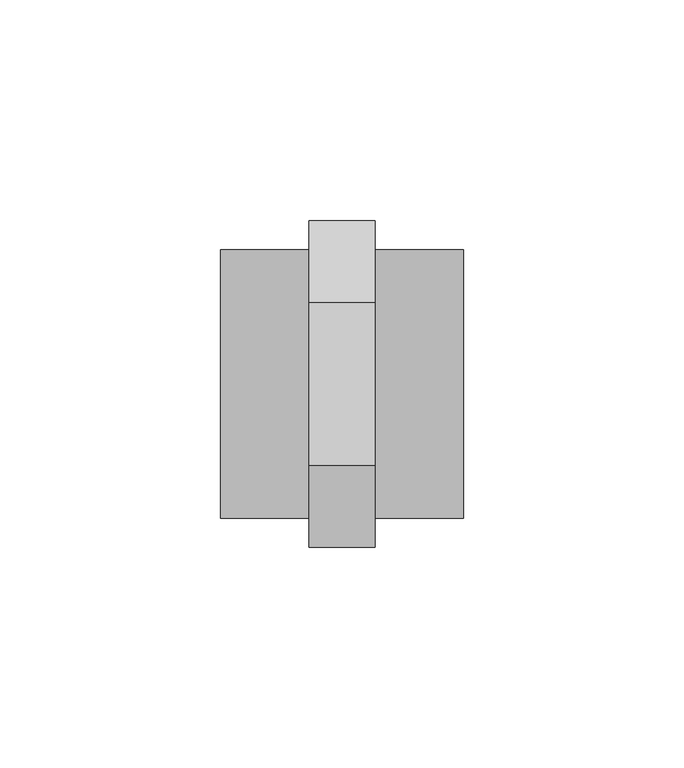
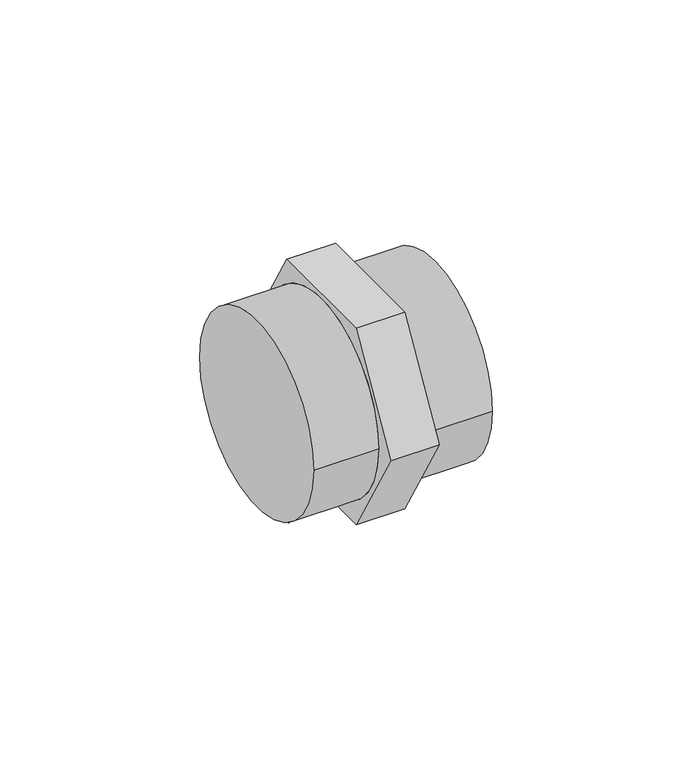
"""IFC4 building model written with IfcOpenShell, lengths in millimetres: pipe fitting geometry, 01011005 : Uniao Simples."""

from ifc_helpers import new_model, si_unit, frame, origin, place, context, project, spatial, circle_curve, source, transform, mapped, element, save
from ifc_brep_helpers import plane_surface, cylinder_surface, advanced_brep


def pipe_fitting_7f28b332(model_context):
    return source(origin(), model_context, "Body", "AdvancedBrep", [
        advanced_brep(
        [(7.5, -18.4752086, 32.0), (7.5, -36.9504172, 0.0), (7.5, -18.4752086, -32.0), (7.5, 18.4752086, -32.0), (7.5, 36.9504172, 0.0), (7.5, 18.4752086, 32.0), (7.5, -30.4, 0.0), (7.5, 30.4, 0.0), (-7.5, -18.4752086, 32.0), (-7.5, 18.4752086, 32.0), (-7.5, 36.9504172, 0.0), (-7.5, 18.4752086, -32.0), (-7.5, -18.4752086, -32.0), (-7.5, -36.9504172, 0.0), (-7.5, 30.4, 0.0), (-7.5, -30.4, 0.0), (-27.5, -30.4, 0.0), (-27.5, 30.4, 0.0), (27.5, -30.4, 0.0), (27.5, 30.4, 0.0)],
        [
            (0, 1),
            (1, 2),
            (2, 3),
            (3, 4),
            (4, 5),
            (5, 0),
            (6, 7, circle_curve(frame((7.5, 0.0, 0.0), z_axis=(-1.0, 0.0, 0.0), x_axis=(0.0, 1.0, 0.0)), 30.4)),
            (7, 6, circle_curve(frame((7.5, 0.0, 0.0), z_axis=(-1.0, 0.0, 0.0), x_axis=(0.0, 1.0, 0.0)), 30.4)),
            (8, 9),
            (9, 10),
            (10, 11),
            (11, 12),
            (12, 13),
            (13, 8),
            (14, 15, circle_curve(frame((-7.5, 0.0, 0.0), z_axis=(1.0, 0.0, 0.0), x_axis=(0.0, 1.0, 0.0)), 30.4)),
            (15, 14, circle_curve(frame((-7.5, 0.0, 0.0), z_axis=(1.0, 0.0, 0.0), x_axis=(0.0, 1.0, 0.0)), 30.4)),
            (0, 8),
            (13, 1),
            (12, 2),
            (11, 3),
            (10, 4),
            (9, 5),
            (16, 17, circle_curve(frame((-27.5, 0.0, 0.0), z_axis=(-1.0, 0.0, 0.0), x_axis=(0.0, 1.0, 0.0)), 30.4)),
            (17, 16, circle_curve(frame((-27.5, 0.0, 0.0), z_axis=(-1.0, 0.0, 0.0), x_axis=(0.0, 1.0, 0.0)), 30.4)),
            (18, 19, circle_curve(frame((27.5, 0.0, 0.0), z_axis=(1.0, 0.0, 0.0), x_axis=(0.0, 1.0, 0.0)), 30.4)),
            (19, 18, circle_curve(frame((27.5, 0.0, 0.0), z_axis=(1.0, 0.0, 0.0), x_axis=(0.0, 1.0, 0.0)), 30.4)),
            (16, 15),
            (14, 17),
            (19, 7),
            (6, 18),
        ],
        [
            plane_surface(frame((7.5, -18.4752086, 32.0), z_axis=(1.0, 0.0, 0.0), x_axis=(0.0, -0.500000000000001, -0.8660254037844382))),
            plane_surface(frame((-7.5, -18.4752086, 32.0), z_axis=(-1.0, 0.0, 0.0), x_axis=(0.0, 0.500000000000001, 0.8660254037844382))),
            plane_surface(frame((7.5, -18.4752086, 32.0), z_axis=(0.0, -0.8660254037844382, 0.500000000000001), x_axis=(-1.0, 0.0, 0.0))),
            plane_surface(frame((7.5, -36.9504172, 0.0), z_axis=(0.0, -0.866025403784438, -0.5000000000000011), x_axis=(-1.0, 0.0, 0.0))),
            plane_surface(frame((7.5, -18.4752086, -32.0), z_axis=(0.0, 0.0, -1.0), x_axis=(-1.0, 0.0, 0.0))),
            plane_surface(frame((7.5, 18.4752086, -32.0), z_axis=(0.0, 0.8660254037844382, -0.5000000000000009), x_axis=(-1.0, 0.0, 0.0))),
            plane_surface(frame((7.5, 36.9504172, 0.0), z_axis=(0.0, 0.866025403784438, 0.5000000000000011), x_axis=(-1.0, 0.0, 0.0))),
            plane_surface(frame((7.5, 18.4752086, 32.0), z_axis=(0.0, 0.0, 1.0), x_axis=(-1.0, 0.0, 0.0))),
            plane_surface(frame((-27.5, 0.0, 0.0), z_axis=(-1.0, 0.0, 0.0), x_axis=(0.0, 0.0, 1.0))),
            plane_surface(frame((27.5, 0.0, 0.0), z_axis=(1.0, 0.0, 0.0), x_axis=(0.0, 0.0, 1.0))),
            cylinder_surface(frame((-27.5, 0.0, 0.0), z_axis=(-1.0, 0.0, 0.0), x_axis=(0.0, 1.0, 0.0)), 30.4),
        ],
        [
            (0, [[1, 2, 3, 4, 5, 6], [7, 8]]),
            (1, [[9, 10, 11, 12, 13, 14], [15, 16]]),
            (2, [[-1, 17, -14, 18]]),
            (3, [[-2, -18, -13, 19]]),
            (4, [[-3, -19, -12, 20]]),
            (5, [[-4, -20, -11, 21]]),
            (6, [[-5, -21, -10, 22]]),
            (7, [[-6, -22, -9, -17]]),
            (8, [[23, 24]]),
            (9, [[25, 26]]),
            (10, [[-23, 27, -15, 28]]),
            (10, [[-26, 29, -7, 30]]),
            (10, [[-24, -28, -16, -27]]),
            (10, [[-25, -30, -8, -29]]),
        ],
    ),
    ])


if __name__ == "__main__":
    model = new_model("IFC4")
    model_context = context("Model", 3, world=origin())
    ifc_project = project(units=[si_unit("LENGTHUNIT", "METRE", prefix="MILLI")], contexts=[model_context])
    site = spatial("IfcSite", under=ifc_project)
    building = spatial("IfcBuilding", under=site)
    placement = place(None, origin())
    pipe_fitting_shape = pipe_fitting_7f28b332(model_context)
    element("IfcPipeFitting", 1, ObjectType="01011005 : Uniao Simples", at=placement, inside=building, context=model_context, shape_type="MappedRepresentation", body=[
        mapped(pipe_fitting_shape, transform((0.0, 0.0, 0.0), x_axis=(1.0, 0.0, 0.0), y_axis=(0.0, 1.0, 0.0), z_axis=(0.0, 0.0, 1.0))),
    ])
    save(model, "model.ifc")
